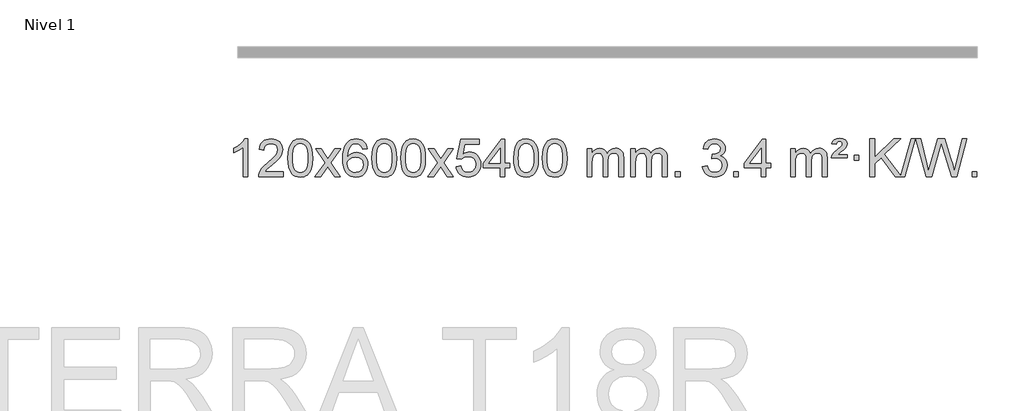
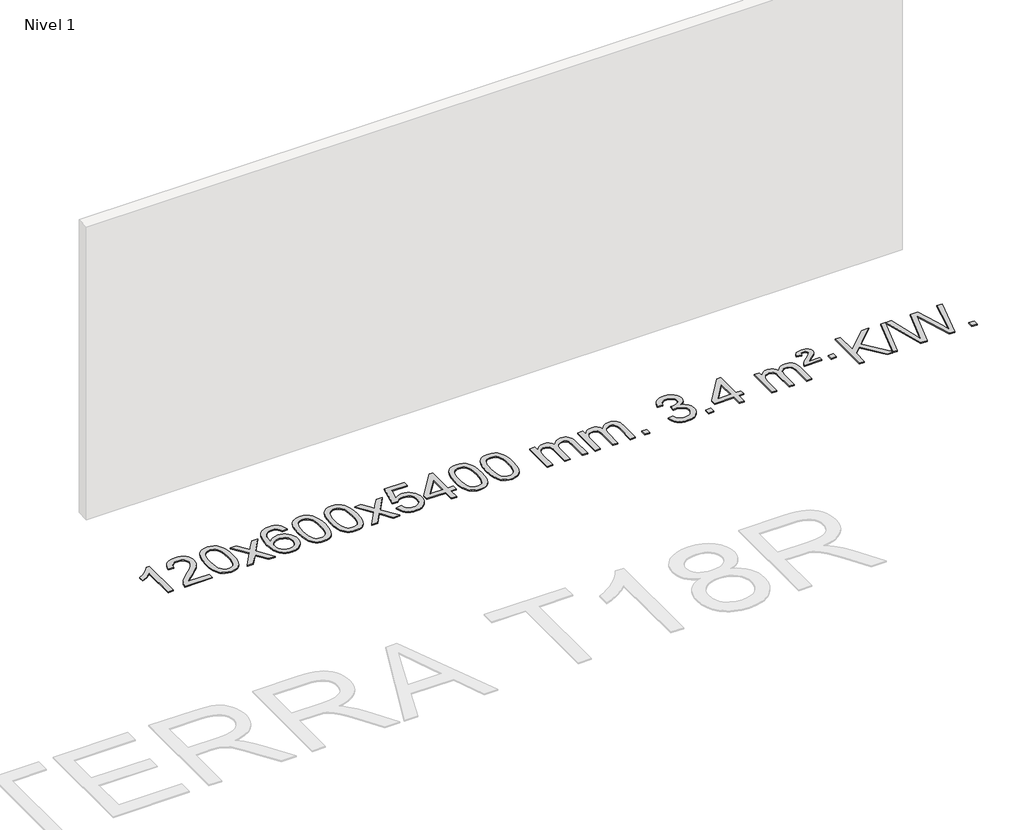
# One storey, part 6 of 12: 1 proxy.
"""IFC4 building model written with IfcOpenShell, lengths in millimetres."""

from ifc_helpers import new_model, si_unit, origin, origin_with_axes, place, context, project, spatial, polyline, outline, extrude, element, save

model = new_model("IFC4")

# Units and contexts
model_context = context("Model", 3, world=origin())
ifc_project = project(units=[si_unit("LENGTHUNIT", "METRE", prefix="MILLI")], contexts=[model_context])

# Site, building, storey
site = spatial("IfcSite", under=ifc_project)
building = spatial("IfcBuilding", under=site)
storey = spatial("IfcBuildingStorey", under=building, Name="Nivel 1", Elevation=0.0)

# Proxy
placement = place(None, origin())
element("IfcBuildingElementProxy", 1, Name="Texto de modelo 1", ObjectType="Texto de modelo 1", at=placement, inside=storey, context=model_context, shape_type="SweptSolid", body=[
    extrude(outline(polyline([(-1721.6378538, -12403.579453), (-1771.8660089, -12403.579453), (-1771.8660089, -12090.4382987), (-1792.8352826, -12107.3976587), (-1819.4454136, -12124.3324932), (-1872.3223191, -12149.6918254), (-1872.3223191, -12102.2105225), (-1832.8731065, -12080.7507395), (-1798.6968691, -12055.219729), (-1771.7556443, -12028.0700378), (-1754.0114694, -12001.7542124), (-1721.6378538, -12001.7542124), (-1721.6378538, -12403.579453)])), origin_with_axes(), (0.0, 0.0, 1.0), 10.0),
    extrude(outline(polyline([(-1344.9266908, -12353.3512979), (-1344.9266908, -12403.579453), (-1608.6245049, -12403.579453), (-1607.5208589, -12385.8965918), (-1603.2289023, -12368.9494945), (-1590.8435418, -12341.8856424), (-1572.7192222, -12315.6311307), (-1546.5014987, -12288.1503456), (-1509.8359265, -12257.4076736), (-1455.6346459, -12209.2641831), (-1423.1138775, -12173.7267824), (-1406.8534933, -12144.884834), (-1401.4333652, -12116.8277005), (-1406.546925, -12091.6768347), (-1421.8876042, -12070.7688747), (-1445.4688401, -12056.6789943), (-1475.3040699, -12051.9823675), (-1506.6353531, -12056.5686297), (-1530.9768785, -12070.3274163), (-1546.6854397, -12092.1796068), (-1552.1178305, -12121.0460807), (-1602.3459855, -12114.7675613), (-1598.0264378, -12088.838012), (-1590.1690915, -12066.1826125), (-1578.7739467, -12046.8013627), (-1563.8410034, -12030.6942627), (-1545.7136181, -12018.0329907), (-1524.7351473, -12008.989225), (-1500.9055911, -12003.5629655), (-1474.2249494, -12001.7542124), (-1447.3051844, -12003.7653006), (-1423.3468694, -12009.7985654), (-1402.3500046, -12019.8540066), (-1384.3145897, -12033.9316242), (-1369.8292362, -12050.9890861), (-1359.4825551, -12069.9840598), (-1353.2745464, -12090.9165453), (-1351.2052102, -12113.7865427), (-1353.4370276, -12137.8092369), (-1360.1324799, -12161.4149983), (-1372.0150684, -12185.4254299), (-1389.8082942, -12210.6621347), (-1418.171996, -12240.7916701), (-1461.7660125, -12279.4805933), (-1519.5480112, -12327.795762), (-1542.2095421, -12353.3512979), (-1344.9266908, -12353.3512979)])), origin_with_axes(), (0.0, 0.0, 1.0), 10.0),
    extrude(outline(polyline([(-1294.6985357, -12205.9041943), (-1291.007453, -12141.5861588), (-1279.934205, -12090.2911459), (-1261.5891561, -12051.2343407), (-1249.7310932, -12036.0009605), (-1236.0826711, -12023.6309284), (-1220.5979048, -12014.0598651), (-1203.230809, -12007.2233914), (-1162.8496286, -12001.7542124), (-1131.8984901, -12004.991574), (-1104.1847131, -12014.7036586), (-1081.0081474, -12030.5103217), (-1063.6686427, -12052.0314184), (-1050.5720437, -12079.0830078), (-1040.1241951, -12111.4811488), (-1033.2815899, -12152.6226186), (-1031.0007216, -12205.9041943), (-1034.6550161, -12269.8543477), (-1045.6178995, -12321.0267333), (-1063.8525837, -12360.1203266), (-1075.6830556, -12375.3996922), (-1089.3222805, -12387.8341036), (-1104.825441, -12397.4695462), (-1122.2477191, -12404.3520052), (-1162.8496286, -12409.8579724), (-1190.5143547, -12407.4667394), (-1215.039821, -12400.2930405), (-1236.4260277, -12388.3368757), (-1254.6729746, -12371.5982449), (-1272.1841576, -12341.3399508), (-1284.6921454, -12303.6381776), (-1292.1969381, -12258.4929255), (-1294.6985357, -12205.9041943)]), holes=[polyline([(-1244.4703806, -12205.8060924), (-1242.9988527, -12249.4706195), (-1238.5842687, -12284.8148822), (-1231.2266288, -12311.8388804), (-1220.9259329, -12330.5426142), (-1208.466996, -12343.2682656), (-1194.634633, -12352.3580165), (-1179.4288439, -12357.8118671), (-1162.8496286, -12359.6298173), (-1146.2704134, -12357.8057357), (-1131.0646243, -12352.3334911), (-1117.2322612, -12343.2130833), (-1104.7733243, -12330.4445124), (-1094.4726285, -12311.7101217), (-1087.1149886, -12284.6922549), (-1082.7004046, -12249.3909118), (-1081.2288766, -12205.8060924), (-1082.6513537, -12163.2973278), (-1086.9187848, -12128.5753989), (-1094.0311701, -12101.6403055), (-1103.9885094, -12082.4920476), (-1116.2389799, -12069.1440625), (-1130.2307584, -12059.6097875), (-1145.9638451, -12053.8892225), (-1163.4382398, -12051.9823675), (-1179.931616, -12053.6623619), (-1194.8798877, -12058.7023452), (-1208.283055, -12067.1023175), (-1220.141118, -12078.8622786), (-1230.7851704, -12099.708925), (-1238.388065, -12127.8151094), (-1242.9498017, -12163.1808319), (-1244.4703806, -12205.8060924)])]), origin_with_axes(), (0.0, 0.0, 1.0), 10.0),
    extrude(outline(polyline([(-1005.886644, -12403.579453), (-898.5632033, -12255.2494325), (-999.6081246, -12108.4890419), (-939.1773756, -12108.4890419), (-890.4207485, -12179.122385), (-867.6611157, -12212.4770192), (-847.9426408, -12185.2047007), (-792.416985, -12108.4890419), (-731.9862359, -12108.4890419), (-838.1324542, -12255.2494325), (-735.9103105, -12403.579453), (-796.3410596, -12403.579453), (-857.8509292, -12314.4048574), (-869.1326437, -12298.1199477), (-945.455895, -12403.579453), (-1005.886644, -12403.579453)])), origin_with_axes(), (0.0, 0.0, 1.0), 10.0),
    extrude(outline(polyline([(-447.0984188, -12108.4890419), (-497.3265739, -12114.7675613), (-505.4199778, -12089.874213), (-516.3583358, -12072.8780648), (-539.142494, -12057.2062918), (-566.6845927, -12051.9823675), (-590.0328367, -12055.0235253), (-612.0076545, -12064.1469988), (-630.8800009, -12083.3627017), (-646.2942565, -12109.8134171), (-656.7053169, -12147.227016), (-660.5680779, -12199.3313693), (-640.4204073, -12175.8237098), (-616.2750857, -12159.2567573), (-589.4810137, -12149.434308), (-561.387092, -12146.1601582), (-537.2540331, -12148.398107), (-514.9849097, -12155.1119534), (-494.5797217, -12166.3016975), (-476.0384691, -12181.9673391), (-460.6303449, -12201.1769106), (-449.6245419, -12222.9984443), (-443.02106, -12247.4319401), (-440.8198994, -12274.4773982), (-444.9647033, -12310.4439945), (-457.3991147, -12343.786366), (-477.0930642, -12372.0642287), (-503.0164821, -12392.8372987), (-533.9921461, -12405.602804), (-568.8428338, -12409.8579724), (-598.7853625, -12407.0375437), (-625.8277548, -12398.5762579), (-649.9700107, -12384.4741147), (-671.2121303, -12364.7311143), (-688.5301752, -12338.5133908), (-700.9002073, -12304.9870783), (-708.3222266, -12264.1521768), (-710.796233, -12216.0086864), (-708.0493807, -12162.0342663), (-699.808824, -12115.9693092), (-686.0745629, -12077.8138149), (-666.8465973, -12047.5677835), (-646.0060823, -12027.5243462), (-621.8423665, -12013.2076052), (-594.3554501, -12004.6175606), (-563.545333, -12001.7542124), (-540.4116869, -12003.5261773), (-519.47307, -12008.8420722), (-500.7294824, -12017.7018969), (-484.1809239, -12030.1056515), (-470.2749845, -12045.6364031), (-459.4592539, -12063.8772186), (-451.733732, -12084.8280983), (-447.0984188, -12108.4890419)]), holes=[polyline([(-660.5680779, -12273.6925832), (-657.6618101, -12295.9494439), (-648.9430068, -12317.2007605), (-635.4049494, -12335.472233), (-618.0409193, -12348.7895612), (-597.0839083, -12356.9197533), (-572.7669084, -12359.6298173), (-539.6207406, -12354.0134855), (-525.7056041, -12346.9930708), (-513.5624326, -12337.1644901), (-503.7123922, -12324.9262824), (-496.676649, -12310.6769865), (-491.0480545, -12276.1451299), (-496.6030726, -12242.9989621), (-503.5468453, -12229.3781312), (-513.268127, -12217.725469), (-525.4480867, -12208.3904634), (-539.7678934, -12201.7226022), (-574.8270476, -12196.3883133), (-607.9241644, -12201.7226022), (-635.6011532, -12217.725469), (-646.5241827, -12229.2248471), (-654.3263467, -12242.3858254), (-659.0076451, -12257.2084042), (-660.5680779, -12273.6925832)])]), origin_with_axes(), (0.0, 0.0, 1.0), 10.0),
    extrude(outline(polyline([(-396.8702638, -12205.9041943), (-393.1791811, -12141.5861588), (-382.105933, -12090.2911459), (-363.7608842, -12051.2343407), (-351.9028212, -12036.0009605), (-338.2543992, -12023.6309284), (-322.7696329, -12014.0598651), (-305.402537, -12007.2233914), (-265.0213567, -12001.7542124), (-234.0702182, -12004.991574), (-206.3564412, -12014.7036586), (-183.1798755, -12030.5103217), (-165.8403708, -12052.0314184), (-152.7437718, -12079.0830078), (-142.2959231, -12111.4811488), (-135.453318, -12152.6226186), (-133.1724496, -12205.9041943), (-136.8267441, -12269.8543477), (-147.7896275, -12321.0267333), (-166.0243118, -12360.1203266), (-177.8547836, -12375.3996922), (-191.4940086, -12387.8341036), (-206.997169, -12397.4695462), (-224.4194471, -12404.3520052), (-265.0213567, -12409.8579724), (-292.6860827, -12407.4667394), (-317.2115491, -12400.2930405), (-338.5977557, -12388.3368757), (-356.8447027, -12371.5982449), (-374.3558856, -12341.3399508), (-386.8638735, -12303.6381776), (-394.3686662, -12258.4929255), (-396.8702638, -12205.9041943)]), holes=[polyline([(-346.6421087, -12205.8060924), (-345.1705807, -12249.4706195), (-340.7559968, -12284.8148822), (-333.3983568, -12311.8388804), (-323.097661, -12330.5426142), (-310.6387241, -12343.2682656), (-296.8063611, -12352.3580165), (-281.6005719, -12357.8118671), (-265.0213567, -12359.6298173), (-248.4421414, -12357.8057357), (-233.2363523, -12352.3334911), (-219.4039893, -12343.2130833), (-206.9450524, -12330.4445124), (-196.6443565, -12311.7101217), (-189.2867166, -12284.6922549), (-184.8721327, -12249.3909118), (-183.4006047, -12205.8060924), (-184.8230817, -12163.2973278), (-189.0905129, -12128.5753989), (-196.2028981, -12101.6403055), (-206.1602375, -12082.4920476), (-218.4107079, -12069.1440625), (-232.4024864, -12059.6097875), (-248.1355731, -12053.8892225), (-265.6099679, -12051.9823675), (-282.103344, -12053.6623619), (-297.0516157, -12058.7023452), (-310.4547831, -12067.1023175), (-322.3128461, -12078.8622786), (-332.9568985, -12099.708925), (-340.559793, -12127.8151094), (-345.1215298, -12163.1808319), (-346.6421087, -12205.8060924)])]), origin_with_axes(), (0.0, 0.0, 1.0), 10.0),
    extrude(outline(polyline([(-89.2228139, -12205.9041943), (-85.5317312, -12141.5861588), (-74.4584832, -12090.2911459), (-56.1134344, -12051.2343407), (-44.2553714, -12036.0009605), (-30.6069494, -12023.6309284), (-15.122183, -12014.0598651), (2.2449128, -12007.2233914), (42.6260932, -12001.7542124), (73.5772317, -12004.991574), (101.2910087, -12014.7036586), (124.4675743, -12030.5103217), (141.8070791, -12052.0314184), (154.9036781, -12079.0830078), (165.3515267, -12111.4811488), (172.1941319, -12152.6226186), (174.4750002, -12205.9041943), (170.8207057, -12269.8543477), (159.8578223, -12321.0267333), (141.6231381, -12360.1203266), (129.7926662, -12375.3996922), (116.1534413, -12387.8341036), (100.6502808, -12397.4695462), (83.2280027, -12404.3520052), (42.6260932, -12409.8579724), (14.9613671, -12407.4667394), (-9.5640992, -12400.2930405), (-30.9503059, -12388.3368757), (-49.1972528, -12371.5982449), (-66.7084358, -12341.3399508), (-79.2164236, -12303.6381776), (-86.7212164, -12258.4929255), (-89.2228139, -12205.9041943)]), holes=[polyline([(-38.9946588, -12205.8060924), (-37.5231309, -12249.4706195), (-33.1085469, -12284.8148822), (-25.750907, -12311.8388804), (-15.4502112, -12330.5426142), (-2.9912742, -12343.2682656), (10.8410888, -12352.3580165), (26.0468779, -12357.8118671), (42.6260932, -12359.6298173), (59.2053084, -12357.8057357), (74.4110975, -12352.3334911), (88.2434606, -12343.2130833), (100.7023975, -12330.4445124), (111.0030933, -12311.7101217), (118.3607332, -12284.6922549), (122.7753172, -12249.3909118), (124.2468452, -12205.8060924), (122.8243681, -12163.2973278), (118.556937, -12128.5753989), (111.4445517, -12101.6403055), (101.4872124, -12082.4920476), (89.2367419, -12069.1440625), (75.2449634, -12059.6097875), (59.5118767, -12053.8892225), (42.037482, -12051.9823675), (25.5441058, -12053.6623619), (10.5958341, -12058.7023452), (-2.8073333, -12067.1023175), (-14.6653962, -12078.8622786), (-25.3094486, -12099.708925), (-32.9123432, -12127.8151094), (-37.4740799, -12163.1808319), (-38.9946588, -12205.8060924)])]), origin_with_axes(), (0.0, 0.0, 1.0), 10.0),
    extrude(outline(polyline([(199.5890778, -12403.579453), (306.9125185, -12255.2494325), (205.8675971, -12108.4890419), (266.2983462, -12108.4890419), (315.0549733, -12179.122385), (337.8146061, -12212.4770192), (357.533081, -12185.2047007), (413.0587368, -12108.4890419), (473.4894859, -12108.4890419), (367.3432676, -12255.2494325), (469.5654113, -12403.579453), (409.1346622, -12403.579453), (347.6247926, -12314.4048574), (336.3430781, -12298.1199477), (260.0198268, -12403.579453), (199.5890778, -12403.579453)])), origin_with_axes(), (0.0, 0.0, 1.0), 10.0),
    extrude(outline(polyline([(500.9580082, -12296.8446235), (551.1861633, -12290.5661041), (560.4077386, -12320.7201649), (576.4964446, -12342.3148381), (599.3787047, -12355.3010725), (628.9809425, -12359.6298173), (648.1108063, -12358.1245668), (664.9843271, -12353.6088153), (679.6015051, -12346.0825628), (691.9623401, -12335.5458094), (701.7909207, -12322.519721), (708.8113355, -12307.5254641), (714.4276673, -12271.6324441), (709.1669547, -12237.8363514), (702.5910641, -12223.9181493), (693.3848172, -12211.9865099), (681.5175571, -12202.4154467), (666.9586272, -12195.5789729), (629.7657575, -12190.1097939), (605.3997066, -12192.2925604), (585.668969, -12198.8408599), (569.9113568, -12208.8717757), (557.4646827, -12221.5023908), (507.2365276, -12215.2238715), (551.1861633, -12008.0327318), (745.8202642, -12008.0327318), (745.8202642, -12058.2608869), (591.8003356, -12058.2608869), (570.316027, -12168.919791), (588.0418078, -12156.2155994), (606.1967843, -12147.1411769), (624.7809564, -12141.6965234), (643.7943242, -12139.8816388), (668.2554112, -12142.1318504), (690.7238041, -12148.882485), (711.1995028, -12160.1335427), (729.6825073, -12175.8850234), (744.9833327, -12195.1743027), (755.9124936, -12217.038756), (762.4699902, -12241.4783832), (764.6558224, -12268.4931844), (762.6876537, -12294.5147042), (756.7831477, -12318.7213394), (746.9423043, -12341.1130902), (733.1651236, -12361.6899565), (712.2939517, -12382.7634634), (687.9401636, -12397.8159684), (660.1037593, -12406.8474714), (628.7847388, -12409.8579724), (602.8643866, -12407.9235262), (579.4517632, -12402.1201877), (558.5468689, -12392.447957), (540.1497034, -12378.9068338), (524.8427467, -12362.1712688), (513.2084787, -12342.915712), (505.2468991, -12321.1401636), (500.9580082, -12296.8446235)])), origin_with_axes(), (0.0, 0.0, 1.0), 10.0),
    extrude(outline(polyline([(971.846962, -12403.579453), (971.846962, -12309.4016622), (789.7698999, -12309.4016622), (789.7698999, -12259.1735072), (984.4040008, -12008.0327318), (1022.0751171, -12008.0327318), (1022.0751171, -12259.1735072), (1072.3032722, -12259.1735072), (1072.3032722, -12309.4016622), (1022.0751171, -12309.4016622), (1022.0751171, -12403.579453), (971.846962, -12403.579453)]), holes=[polyline([(971.846962, -12259.1735072), (971.846962, -12103.9763561), (851.5740751, -12259.1735072), (971.846962, -12259.1735072)])]), origin_with_axes(), (0.0, 0.0, 1.0), 10.0),
    extrude(outline(polyline([(1116.2529079, -12205.9041943), (1119.9439906, -12141.5861588), (1131.0172386, -12090.2911459), (1149.3622874, -12051.2343407), (1161.2203504, -12036.0009605), (1174.8687724, -12023.6309284), (1190.3535388, -12014.0598651), (1207.7206346, -12007.2233914), (1248.1018149, -12001.7542124), (1279.0529535, -12004.991574), (1306.7667304, -12014.7036586), (1329.9432961, -12030.5103217), (1347.2828008, -12052.0314184), (1360.3793999, -12079.0830078), (1370.8272485, -12111.4811488), (1377.6698537, -12152.6226186), (1379.950722, -12205.9041943), (1376.2964275, -12269.8543477), (1365.3335441, -12321.0267333), (1347.0988599, -12360.1203266), (1335.268388, -12375.3996922), (1321.6291631, -12387.8341036), (1306.1260026, -12397.4695462), (1288.7037245, -12404.3520052), (1248.1018149, -12409.8579724), (1220.4370889, -12407.4667394), (1195.9116226, -12400.2930405), (1174.5254159, -12388.3368757), (1156.278469, -12371.5982449), (1138.767286, -12341.3399508), (1126.2592981, -12303.6381776), (1118.7545054, -12258.4929255), (1116.2529079, -12205.9041943)]), holes=[polyline([(1166.481063, -12205.8060924), (1167.9525909, -12249.4706195), (1172.3671749, -12284.8148822), (1179.7248148, -12311.8388804), (1190.0255106, -12330.5426142), (1202.4844475, -12343.2682656), (1216.3168106, -12352.3580165), (1231.5225997, -12357.8118671), (1248.1018149, -12359.6298173), (1264.6810302, -12357.8057357), (1279.8868193, -12352.3334911), (1293.7191824, -12343.2130833), (1306.1781193, -12330.4445124), (1316.4788151, -12311.7101217), (1323.836455, -12284.6922549), (1328.251039, -12249.3909118), (1329.7225669, -12205.8060924), (1328.3000899, -12163.2973278), (1324.0326588, -12128.5753989), (1316.9202735, -12101.6403055), (1306.9629342, -12082.4920476), (1294.7124637, -12069.1440625), (1280.7206852, -12059.6097875), (1264.9875985, -12053.8892225), (1247.5132038, -12051.9823675), (1231.0198276, -12053.6623619), (1216.0715559, -12058.7023452), (1202.6683885, -12067.1023175), (1190.8103256, -12078.8622786), (1180.1662732, -12099.708925), (1172.5633786, -12127.8151094), (1168.0016419, -12163.1808319), (1166.481063, -12205.8060924)])]), origin_with_axes(), (0.0, 0.0, 1.0), 10.0),
    extrude(outline(polyline([(1423.9003577, -12205.9041943), (1427.5914404, -12141.5861588), (1438.6646885, -12090.2911459), (1457.0097373, -12051.2343407), (1468.8678003, -12036.0009605), (1482.5162223, -12023.6309284), (1498.0009886, -12014.0598651), (1515.3680844, -12007.2233914), (1555.7492648, -12001.7542124), (1586.7004033, -12004.991574), (1614.4141803, -12014.7036586), (1637.590746, -12030.5103217), (1654.9302507, -12052.0314184), (1668.0268497, -12079.0830078), (1678.4746984, -12111.4811488), (1685.3173035, -12152.6226186), (1687.5981719, -12205.9041943), (1683.9438774, -12269.8543477), (1672.9809939, -12321.0267333), (1654.7463097, -12360.1203266), (1642.9158379, -12375.3996922), (1629.2766129, -12387.8341036), (1613.7734525, -12397.4695462), (1596.3511743, -12404.3520052), (1555.7492648, -12409.8579724), (1528.0845387, -12407.4667394), (1503.5590724, -12400.2930405), (1482.1728657, -12388.3368757), (1463.9259188, -12371.5982449), (1446.4147358, -12341.3399508), (1433.906748, -12303.6381776), (1426.4019553, -12258.4929255), (1423.9003577, -12205.9041943)]), holes=[polyline([(1474.1285128, -12205.8060924), (1475.6000408, -12249.4706195), (1480.0146247, -12284.8148822), (1487.3722646, -12311.8388804), (1497.6729605, -12330.5426142), (1510.1318974, -12343.2682656), (1523.9642604, -12352.3580165), (1539.1700495, -12357.8118671), (1555.7492648, -12359.6298173), (1572.32848, -12357.8057357), (1587.5342692, -12352.3334911), (1601.3666322, -12343.2130833), (1613.8255691, -12330.4445124), (1624.126265, -12311.7101217), (1631.4839049, -12284.6922549), (1635.8984888, -12249.3909118), (1637.3700168, -12205.8060924), (1635.9475397, -12163.2973278), (1631.6801086, -12128.5753989), (1624.5677233, -12101.6403055), (1614.610384, -12082.4920476), (1602.3599136, -12069.1440625), (1588.368135, -12059.6097875), (1572.6350484, -12053.8892225), (1555.1606536, -12051.9823675), (1538.6672775, -12053.6623619), (1523.7190057, -12058.7023452), (1510.3158384, -12067.1023175), (1498.4577754, -12078.8622786), (1487.813723, -12099.708925), (1480.2108284, -12127.8151094), (1475.6490917, -12163.1808319), (1474.1285128, -12205.8060924)])]), origin_with_axes(), (0.0, 0.0, 1.0), 10.0),
    extrude(outline(polyline([(1901.0678309, -12403.579453), (1901.0678309, -12108.4890419), (1951.295986, -12108.4890419), (1951.295986, -12157.0494653), (1966.4036733, -12134.7435537), (1985.8278426, -12117.2691589), (2008.9063064, -12105.9751816), (2034.9768772, -12102.2105225), (2062.9113833, -12106.048758), (2085.3031341, -12117.5634645), (2102.0295022, -12135.9943524), (2112.9678601, -12160.5811324), (2131.2761208, -12135.0439906), (2152.1595554, -12116.803175), (2175.6181639, -12105.8586857), (2201.6519464, -12102.2105225), (2221.7597632, -12103.7280358), (2239.4089019, -12108.2805755), (2254.5993626, -12115.8681416), (2267.3311453, -12126.4907342), (2277.3957836, -12140.2709806), (2284.5848109, -12157.3315082), (2288.8982273, -12177.6723168), (2290.3360328, -12201.2934066), (2290.3360328, -12403.579453), (2240.1078777, -12403.579453), (2240.1078777, -12222.875817), (2238.942918, -12197.8230531), (2235.4480391, -12180.9372695), (2228.8997396, -12169.3735121), (2218.5745182, -12160.2868268), (2205.2939782, -12154.4007149), (2189.8797226, -12152.4386776), (2162.6687177, -12157.4663982), (2140.4854334, -12172.54956), (2131.8800604, -12184.1194488), (2125.7333654, -12198.7182326), (2120.8160094, -12237.0024856), (2120.8160094, -12403.579453), (2070.5878543, -12403.579453), (2070.5878543, -12217.2840106), (2067.6815865, -12188.8835206), (2058.9627833, -12168.6254854), (2043.6221041, -12156.4853796), (2020.8502086, -12152.4386776), (2001.4996156, -12155.1364789), (1983.6696016, -12163.2298828), (1968.9543218, -12176.5226856), (1958.9479315, -12194.8186835), (1953.2089724, -12220.2025411), (1951.295986, -12254.7589232), (1951.295986, -12403.579453), (1901.0678309, -12403.579453)])), origin_with_axes(), (0.0, 0.0, 1.0), 10.0),
    extrude(outline(polyline([(2365.6782654, -12403.579453), (2365.6782654, -12108.4890419), (2415.9064204, -12108.4890419), (2415.9064204, -12157.0494653), (2431.0141077, -12134.7435537), (2450.4382771, -12117.2691589), (2473.5167409, -12105.9751816), (2499.5873116, -12102.2105225), (2527.5218178, -12106.048758), (2549.9135685, -12117.5634645), (2566.6399366, -12135.9943524), (2577.5782946, -12160.5811324), (2595.8865552, -12135.0439906), (2616.7699898, -12116.803175), (2640.2285984, -12105.8586857), (2666.2623809, -12102.2105225), (2686.3701976, -12103.7280358), (2704.0193363, -12108.2805755), (2719.209797, -12115.8681416), (2731.9415798, -12126.4907342), (2742.006218, -12140.2709806), (2749.1952453, -12157.3315082), (2753.5086617, -12177.6723168), (2754.9464672, -12201.2934066), (2754.9464672, -12403.579453), (2704.7183121, -12403.579453), (2704.7183121, -12222.875817), (2703.5533525, -12197.8230531), (2700.0584735, -12180.9372695), (2693.510174, -12169.3735121), (2683.1849527, -12160.2868268), (2669.9044126, -12154.4007149), (2654.490157, -12152.4386776), (2627.2791521, -12157.4663982), (2605.0958678, -12172.54956), (2596.4904948, -12184.1194488), (2590.3437998, -12198.7182326), (2585.4264438, -12237.0024856), (2585.4264438, -12403.579453), (2535.1982887, -12403.579453), (2535.1982887, -12217.2840106), (2532.292021, -12188.8835206), (2523.5732177, -12168.6254854), (2508.2325385, -12156.4853796), (2485.460643, -12152.4386776), (2466.11005, -12155.1364789), (2448.280036, -12163.2298828), (2433.5647562, -12176.5226856), (2423.5583659, -12194.8186835), (2417.8194068, -12220.2025411), (2415.9064204, -12254.7589232), (2415.9064204, -12403.579453), (2365.6782654, -12403.579453)])), origin_with_axes(), (0.0, 0.0, 1.0), 10.0),
    extrude(outline(polyline([(2842.8457386, -12403.579453), (2842.8457386, -12353.3512979), (2893.0738936, -12353.3512979), (2893.0738936, -12403.579453), (2842.8457386, -12403.579453)])), origin_with_axes(), (0.0, 0.0, 1.0), 10.0),
    extrude(outline(polyline([(3131.6576303, -12296.8446235), (3181.8857853, -12290.5661041), (3193.1307116, -12322.1303793), (3209.5995623, -12343.4430095), (3232.1016777, -12355.5831154), (3261.4463982, -12359.6298173), (3295.8801529, -12354.0625364), (3310.1539743, -12347.1034354), (3322.4657584, -12337.3606939), (3339.4619066, -12312.4428201), (3345.1272893, -12282.2274455), (3339.5109575, -12253.5449126), (3322.6619621, -12230.2825078), (3297.1554772, -12214.8682522), (3265.5666765, -12209.730167), (3230.3481068, -12215.2238715), (3235.9399132, -12164.9957164), (3243.9842661, -12165.5843276), (3274.0770133, -12161.979084), (3300.9814499, -12151.1633534), (3312.054698, -12142.9841103), (3319.9641609, -12132.8673555), (3324.7098386, -12120.8130888), (3326.2917312, -12106.8213102), (3321.705469, -12085.1285352), (3307.9466823, -12067.5315131), (3286.9528832, -12055.8696539), (3260.6615832, -12051.9823675), (3234.3212324, -12055.9064421), (3212.7878729, -12067.6786659), (3197.067049, -12087.299039), (3188.1643047, -12114.7675613), (3137.9361496, -12108.4890419), (3143.8897066, -12084.5092672), (3152.7250058, -12063.3867093), (3164.4420474, -12045.1213683), (3179.0408312, -12029.713244), (3196.0615049, -12017.4811677), (3215.0442158, -12008.7439703), (3235.9889641, -12003.5016519), (3258.8957497, -12001.7542124), (3290.4722876, -12005.2000404), (3319.4736515, -12015.5375245), (3343.9255415, -12031.8469596), (3361.8536574, -12053.2086408), (3372.853329, -12077.8199463), (3376.5198862, -12103.8782543), (3373.03727, -12128.1584659), (3362.5894214, -12150.1823347), (3345.3234931, -12168.9443165), (3321.3866379, -12183.4388671), (3352.8282858, -12196.1430586), (3376.1274788, -12217.77452), (3390.548453, -12247.1560286), (3395.3554444, -12283.1103623), (3392.9519487, -12308.5923218), (3385.7414616, -12332.0631931), (3373.7239831, -12353.5229762), (3356.8995132, -12372.971671), (3336.4023547, -12389.1094278), (3313.3668104, -12400.636397), (3287.7928804, -12407.5525785), (3259.6805646, -12409.8579724), (3234.2721814, -12407.8898037), (3211.1201412, -12401.9852977), (3190.2244439, -12392.1444543), (3171.5850895, -12378.3672736), (3155.956236, -12361.4630959), (3144.0920417, -12342.2412617), (3135.9925064, -12320.7017708), (3131.6576303, -12296.8446235)])), origin_with_axes(), (0.0, 0.0, 1.0), 10.0),
    extrude(outline(polyline([(3464.4191576, -12403.579453), (3464.4191576, -12353.3512979), (3514.6473127, -12353.3512979), (3514.6473127, -12403.579453), (3464.4191576, -12403.579453)])), origin_with_axes(), (0.0, 0.0, 1.0), 10.0),
    extrude(outline(polyline([(3759.5095687, -12403.579453), (3759.5095687, -12309.4016622), (3577.4325065, -12309.4016622), (3577.4325065, -12259.1735072), (3772.0666075, -12008.0327318), (3809.7377238, -12008.0327318), (3809.7377238, -12259.1735072), (3859.9658788, -12259.1735072), (3859.9658788, -12309.4016622), (3809.7377238, -12309.4016622), (3809.7377238, -12403.579453), (3759.5095687, -12403.579453)]), holes=[polyline([(3759.5095687, -12259.1735072), (3759.5095687, -12103.9763561), (3639.2366817, -12259.1735072), (3759.5095687, -12259.1735072)])]), origin_with_axes(), (0.0, 0.0, 1.0), 10.0),
    extrude(outline(polyline([(4073.4355379, -12403.579453), (4073.4355379, -12108.4890419), (4123.663693, -12108.4890419), (4123.663693, -12157.0494653), (4138.7713803, -12134.7435537), (4158.1955496, -12117.2691589), (4181.2740134, -12105.9751816), (4207.3445842, -12102.2105225), (4235.2790903, -12106.048758), (4257.6708411, -12117.5634645), (4274.3972091, -12135.9943524), (4285.3355671, -12160.5811324), (4303.6438278, -12135.0439906), (4324.5272623, -12116.803175), (4347.9858709, -12105.8586857), (4374.0196534, -12102.2105225), (4394.1274702, -12103.7280358), (4411.7766089, -12108.2805755), (4426.9670696, -12115.8681416), (4439.6988523, -12126.4907342), (4449.7634906, -12140.2709806), (4456.9525179, -12157.3315082), (4461.2659343, -12177.6723168), (4462.7037397, -12201.2934066), (4462.7037397, -12403.579453), (4412.4755847, -12403.579453), (4412.4755847, -12222.875817), (4411.310625, -12197.8230531), (4407.8157461, -12180.9372695), (4401.2674465, -12169.3735121), (4390.9422252, -12160.2868268), (4377.6616852, -12154.4007149), (4362.2474296, -12152.4386776), (4335.0364247, -12157.4663982), (4312.8531404, -12172.54956), (4304.2477674, -12184.1194488), (4298.1010724, -12198.7182326), (4293.1837164, -12237.0024856), (4293.1837164, -12403.579453), (4242.9555613, -12403.579453), (4242.9555613, -12217.2840106), (4240.0492935, -12188.8835206), (4231.3304902, -12168.6254854), (4215.989811, -12156.4853796), (4193.2179155, -12152.4386776), (4173.8673226, -12155.1364789), (4156.0373086, -12163.2298828), (4141.3220287, -12176.5226856), (4131.3156385, -12194.8186835), (4125.5766794, -12220.2025411), (4123.663693, -12254.7589232), (4123.663693, -12403.579453), (4073.4355379, -12403.579453)])), origin_with_axes(), (0.0, 0.0, 1.0), 10.0),
    extrude(outline(polyline([(4506.6533754, -12202.6668327), (4510.4793482, -12186.8479069), (4518.8180067, -12170.9799302), (4540.3268407, -12145.8413272), (4572.2835234, -12118.1030247), (4616.4293628, -12080.726214), (4623.5662735, -12069.1992448), (4625.9452437, -12057.3779701), (4624.0567828, -12045.2869152), (4618.3914001, -12035.5012541), (4609.022672, -12029.026531), (4596.0241748, -12026.8682899), (4583.5897634, -12028.4869707), (4574.73607, -12033.343013), (4568.3103978, -12042.8098431), (4563.1600499, -12058.2608869), (4512.9318948, -12051.9823675), (4523.7721509, -12026.7701881), (4540.4004171, -12009.2099542), (4564.165594, -11998.9092583), (4596.4165822, -11995.475693), (4632.1992376, -11999.6082341), (4656.9454332, -12012.0058573), (4671.3664074, -12030.3386434), (4676.1733988, -12052.2766731), (4672.0776459, -12075.1834586), (4659.7903873, -12096.8149199), (4639.262572, -12116.6314968), (4602.7932035, -12144.6886303), (4577.1886166, -12171.2742358), (4676.1733988, -12171.2742358), (4676.1733988, -12202.6668327), (4506.6533754, -12202.6668327)])), origin_with_axes(), (0.0, 0.0, 1.0), 10.0),
    extrude(outline(polyline([(4751.5156314, -12227.7809102), (4751.5156314, -12177.5527552), (4801.7437865, -12177.5527552), (4801.7437865, -12227.7809102), (4751.5156314, -12227.7809102)])), origin_with_axes(), (0.0, 0.0, 1.0), 10.0),
    extrude(outline(polyline([(5192.3854144, -12403.579453), (5038.954097, -12200.9009991), (4971.2638099, -12265.4520265), (4971.2638099, -12403.579453), (4921.0356548, -12403.579453), (4921.0356548, -12001.7542124), (4971.2638099, -12001.7542124), (4971.2638099, -12198.4484525), (5177.2777272, -12001.7542124), (5247.5186628, -12001.7542124), (5074.5650741, -12166.9577537), (5249.218684, -12397.5349332), (5360.5320117, -12001.7542124), (5405.8550735, -12001.7542124), (5292.8417246, -12403.579453), (5253.7971822, -12403.579453), (5247.5186628, -12403.579453), (5192.3854144, -12403.579453)])), origin_with_axes(), (0.0, 0.0, 1.0), 10.0),
    extrude(outline(polyline([(5520.3399504, -12403.579453), (5410.7601668, -12001.7542124), (5462.5579517, -12001.7542124), (5526.1279605, -12265.844434), (5545.7483335, -12347.3670841), (5566.7421327, -12275.2622131), (5646.4008474, -12001.7542124), (5721.056367, -12001.7542124), (5778.9364675, -12200.0180823), (5803.731714, -12273.5944814), (5822.0031864, -12347.3670841), (5841.0349483, -12268.1988788), (5905.1935683, -12001.7542124), (5956.9913532, -12001.7542124), (5847.3134677, -12403.579453), (5793.6517474, -12403.579453), (5697.3157155, -12093.5775584), (5683.87576, -12050.3146358), (5668.7680727, -12102.4067263), (5580.9669032, -12403.579453), (5520.3399504, -12403.579453)])), origin_with_axes(), (0.0, 0.0, 1.0), 10.0),
    extrude(outline(polyline([(6013.4980277, -12403.579453), (6013.4980277, -12353.3512979), (6063.7261827, -12353.3512979), (6063.7261827, -12403.579453), (6013.4980277, -12403.579453)])), origin_with_axes(), (0.0, 0.0, 1.0), 10.0),
])

save(model, "model.ifc")
